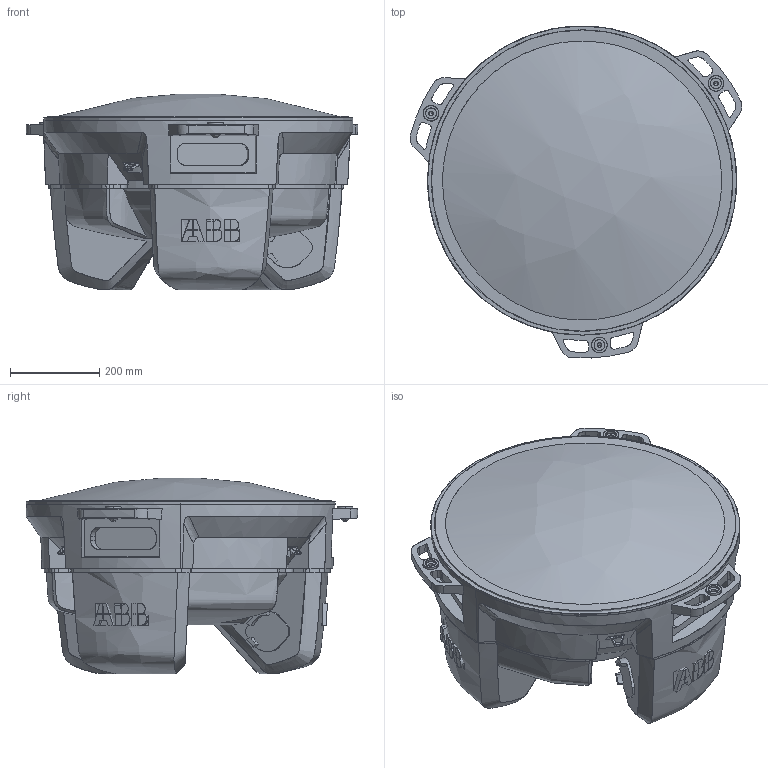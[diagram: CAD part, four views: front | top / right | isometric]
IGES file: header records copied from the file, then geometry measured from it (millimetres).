
Start section: SolidWorks IGES file using analytic representation for surfaces
Global section: file name: C:\Users\sedahar1\OneDrive - ABB\Documents\GPI local\Work Items\695605\IRB360_8-1130-STD-4D\IRB360_8-1130-STD-4D_rev03_BASE_CAD.IGS; native system: SolidWorks 2024; preprocessor: SolidWorks 2024; author: SEDAHAR1; date: 260112.111314; units: millimetre
Bounding box: 742.52 x 742.66 x 438.45 mm (x, y, z)
Surface area: 3787588.1 mm2 (no closed solid volume)
Topology: 0 solids, 0 shells, 737 faces, 10966 edges, 10954 vertices
Faces by surface type: bspline 463, revolution 274
